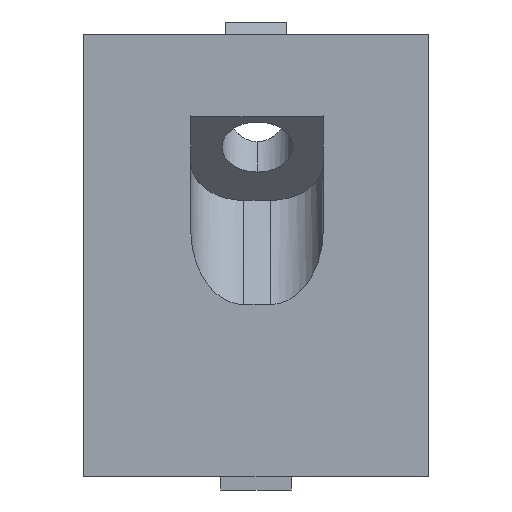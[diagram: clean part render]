
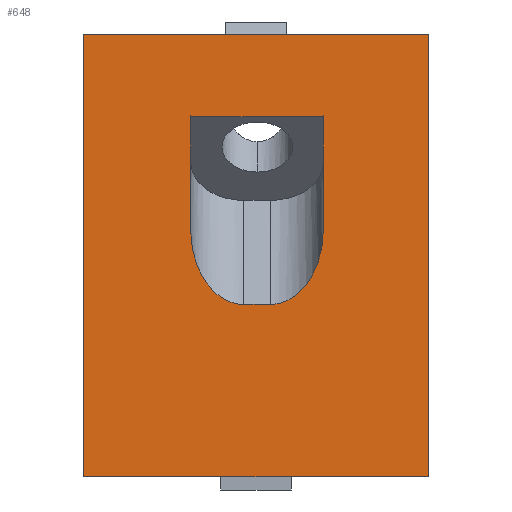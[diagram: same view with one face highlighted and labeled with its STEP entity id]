
A CAD part, front view. The second image highlights one B-rep face of the part: STEP entity #648.
In plain terms, the highlighted planar face has unit normal (0, -1, 0).
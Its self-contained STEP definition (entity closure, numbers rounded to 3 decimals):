
#30 = CARTESIAN_POINT ( 'NONE',  ( -19.655, -12.538, 50. ) ) ;
#60 = CARTESIAN_POINT ( 'NONE',  ( -19.655, -12.538, 40.689 ) ) ;
#69 = CARTESIAN_POINT ( 'NONE',  ( 7.467, -12.538, 22.991 ) ) ;
#71 = VECTOR ( 'NONE', #1024, 1000. ) ;
#94 = VECTOR ( 'NONE', #882, 1000. ) ;
#110 = CARTESIAN_POINT ( 'NONE',  ( -7.533, -12.538, 27.962 ) ) ;
#111 = EDGE_CURVE ( 'NONE', #1963, #1657, #1999, .T. ) ;
#139 = DIRECTION ( 'NONE',  ( 0., 0., 1. ) ) ;
#140 =( BOUNDED_CURVE ( )  B_SPLINE_CURVE ( 3, ( #565, #69, #393, #1698 ),
 .UNSPECIFIED., .F., .T. ) 
 B_SPLINE_CURVE_WITH_KNOTS ( ( 4, 4 ),
 ( 1.571, 3.142 ),
 .UNSPECIFIED. ) 
 CURVE ( )  GEOMETRIC_REPRESENTATION_ITEM ( )  RATIONAL_B_SPLINE_CURVE ( ( 1., 0.805, 0.805, 1. ) ) 
 REPRESENTATION_ITEM ( '' )  );
#179 = VERTEX_POINT ( 'NONE', #762 ) ;
#185 = LINE ( 'NONE', #60, #625 ) ;
#188 = LINE ( 'NONE', #2051, #1443 ) ;
#191 = CARTESIAN_POINT ( 'NONE',  ( -19.655, -12.538, 50. ) ) ;
#221 = DIRECTION ( 'NONE',  ( 0., 0., 1. ) ) ;
#244 = CARTESIAN_POINT ( 'NONE',  ( 19.345, -12.538, 0. ) ) ;
#272 = ORIENTED_EDGE ( 'NONE', *, *, #660, .T. ) ;
#293 = ORIENTED_EDGE ( 'NONE', *, *, #1781, .T. ) ;
#328 = EDGE_CURVE ( 'NONE', #1963, #2062, #1880, .T. ) ;
#354 = DIRECTION ( 'NONE',  ( 0., 0., 1. ) ) ;
#359 = CARTESIAN_POINT ( 'NONE',  ( 19.345, -12.538, 50. ) ) ;
#393 = CARTESIAN_POINT ( 'NONE',  ( 4.981, -12.538, 19.476 ) ) ;
#465 = LINE ( 'NONE', #906, #1659 ) ;
#508 = DIRECTION ( 'NONE',  ( 1., 0., 0. ) ) ;
#545 = CARTESIAN_POINT ( 'NONE',  ( 7.467, -12.538, 40.689 ) ) ;
#565 = CARTESIAN_POINT ( 'NONE',  ( 7.467, -12.538, 27.962 ) ) ;
#625 = VECTOR ( 'NONE', #1841, 1000. ) ;
#648 = ADVANCED_FACE ( 'NONE', ( #840, #2053 ), #1932, .F. ) ;
#660 = EDGE_CURVE ( 'NONE', #179, #902, #1606, .T. ) ;
#664 = CARTESIAN_POINT ( 'NONE',  ( -19.655, -12.538, 19.476 ) ) ;
#698 = LINE ( 'NONE', #1157, #1096 ) ;
#729 = ORIENTED_EDGE ( 'NONE', *, *, #1538, .T. ) ;
#762 = CARTESIAN_POINT ( 'NONE',  ( -19.655, -12.538, 50. ) ) ;
#763 = CARTESIAN_POINT ( 'NONE',  ( -1.533, -12.538, 19.476 ) ) ;
#771 = EDGE_CURVE ( 'NONE', #179, #1310, #1403, .T. ) ;
#810 = EDGE_CURVE ( 'NONE', #1950, #2062, #140, .T. ) ;
#840 = FACE_OUTER_BOUND ( 'NONE', #1182, .T. ) ;
#882 = DIRECTION ( 'NONE',  ( 1., 0., 0. ) ) ;
#902 = VERTEX_POINT ( 'NONE', #1728 ) ;
#906 = CARTESIAN_POINT ( 'NONE',  ( -19.655, -12.538, 0. ) ) ;
#969 = CARTESIAN_POINT ( 'NONE',  ( -7.533, -12.538, 27.962 ) ) ;
#974 = CARTESIAN_POINT ( 'NONE',  ( -1.533, -12.538, 19.476 ) ) ;
#982 = ORIENTED_EDGE ( 'NONE', *, *, #328, .F. ) ;
#997 = DIRECTION ( 'NONE',  ( 0., 0., -1. ) ) ;
#1010 = ORIENTED_EDGE ( 'NONE', *, *, #111, .T. ) ;
#1017 = CARTESIAN_POINT ( 'NONE',  ( -7.533, -12.538, 22.991 ) ) ;
#1024 = DIRECTION ( 'NONE',  ( 0., 0., -1. ) ) ;
#1027 = CARTESIAN_POINT ( 'NONE',  ( -5.048, -12.538, 19.476 ) ) ;
#1043 = EDGE_CURVE ( 'NONE', #1950, #2037, #188, .T. ) ;
#1050 = CARTESIAN_POINT ( 'NONE',  ( -7.533, -12.538, 50. ) ) ;
#1088 = VECTOR ( 'NONE', #221, 1000. ) ;
#1096 = VECTOR ( 'NONE', #997, 1000. ) ;
#1134 = LINE ( 'NONE', #1050, #1088 ) ;
#1143 = ORIENTED_EDGE ( 'NONE', *, *, #810, .T. ) ;
#1157 = CARTESIAN_POINT ( 'NONE',  ( 19.345, -12.538, 50. ) ) ;
#1182 = EDGE_LOOP ( 'NONE', ( #729, #1757, #1359, #272 ) ) ;
#1212 = EDGE_CURVE ( 'NONE', #1310, #1879, #698, .T. ) ;
#1243 = CARTESIAN_POINT ( 'NONE',  ( 7.467, -12.538, 27.962 ) ) ;
#1310 = VERTEX_POINT ( 'NONE', #359 ) ;
#1333 = DIRECTION ( 'NONE',  ( 0., 1., 0. ) ) ;
#1359 = ORIENTED_EDGE ( 'NONE', *, *, #771, .F. ) ;
#1375 = CARTESIAN_POINT ( 'NONE',  ( -19.655, -12.538, 50. ) ) ;
#1398 = DIRECTION ( 'NONE',  ( 1., 0., 0. ) ) ;
#1403 = LINE ( 'NONE', #1375, #94 ) ;
#1406 = VECTOR ( 'NONE', #508, 1000. ) ;
#1435 = AXIS2_PLACEMENT_3D ( 'NONE', #191, #1333, #354 ) ;
#1443 = VECTOR ( 'NONE', #139, 1000. ) ;
#1466 = EDGE_CURVE ( 'NONE', #1693, #2037, #185, .T. ) ;
#1538 = EDGE_CURVE ( 'NONE', #902, #1879, #465, .T. ) ;
#1606 = LINE ( 'NONE', #30, #71 ) ;
#1657 = VERTEX_POINT ( 'NONE', #110 ) ;
#1659 = VECTOR ( 'NONE', #1398, 1000. ) ;
#1663 = CARTESIAN_POINT ( 'NONE',  ( -7.533, -12.538, 40.689 ) ) ;
#1688 = CARTESIAN_POINT ( 'NONE',  ( 1.467, -12.538, 19.476 ) ) ;
#1693 = VERTEX_POINT ( 'NONE', #1663 ) ;
#1698 = CARTESIAN_POINT ( 'NONE',  ( 1.467, -12.538, 19.476 ) ) ;
#1728 = CARTESIAN_POINT ( 'NONE',  ( -19.655, -12.538, 0. ) ) ;
#1755 = ORIENTED_EDGE ( 'NONE', *, *, #1043, .F. ) ;
#1757 = ORIENTED_EDGE ( 'NONE', *, *, #1212, .F. ) ;
#1758 = ORIENTED_EDGE ( 'NONE', *, *, #1466, .T. ) ;
#1781 = EDGE_CURVE ( 'NONE', #1657, #1693, #1134, .T. ) ;
#1841 = DIRECTION ( 'NONE',  ( 1., 0., 0. ) ) ;
#1879 = VERTEX_POINT ( 'NONE', #244 ) ;
#1880 = LINE ( 'NONE', #664, #1406 ) ;
#1932 = PLANE ( 'NONE',  #1435 ) ;
#1950 = VERTEX_POINT ( 'NONE', #1243 ) ;
#1963 = VERTEX_POINT ( 'NONE', #763 ) ;
#1988 = EDGE_LOOP ( 'NONE', ( #982, #1010, #293, #1758, #1755, #1143 ) ) ;
#1999 =( BOUNDED_CURVE ( )  B_SPLINE_CURVE ( 3, ( #974, #1027, #1017, #969 ),
 .UNSPECIFIED., .F., .F. ) 
 B_SPLINE_CURVE_WITH_KNOTS ( ( 4, 4 ),
 ( 0., 1.571 ),
 .UNSPECIFIED. ) 
 CURVE ( )  GEOMETRIC_REPRESENTATION_ITEM ( )  RATIONAL_B_SPLINE_CURVE ( ( 1., 0.805, 0.805, 1. ) ) 
 REPRESENTATION_ITEM ( '' )  );
#2037 = VERTEX_POINT ( 'NONE', #545 ) ;
#2051 = CARTESIAN_POINT ( 'NONE',  ( 7.467, -12.538, 50. ) ) ;
#2053 = FACE_BOUND ( 'NONE', #1988, .T. ) ;
#2062 = VERTEX_POINT ( 'NONE', #1688 ) ;
